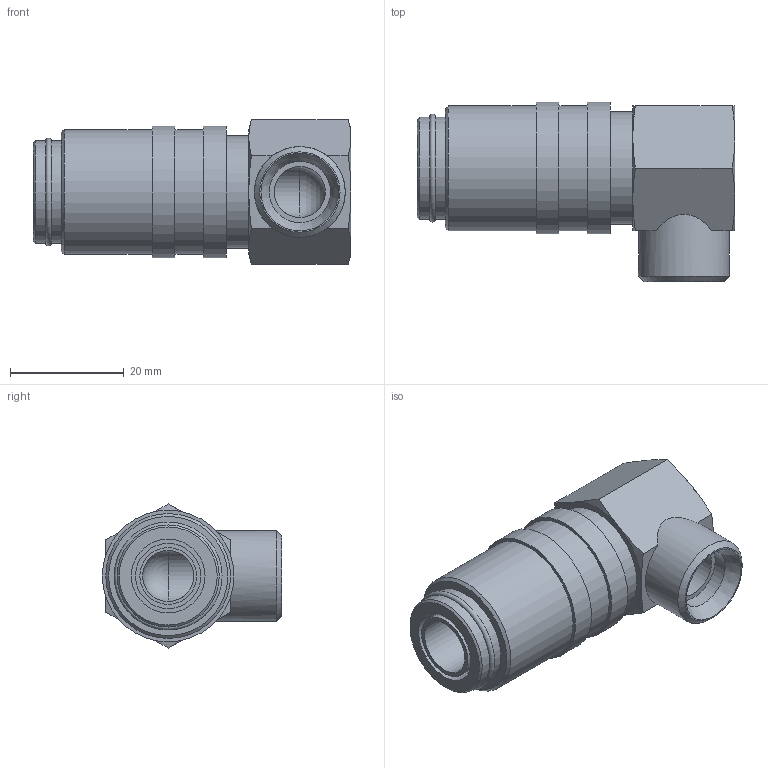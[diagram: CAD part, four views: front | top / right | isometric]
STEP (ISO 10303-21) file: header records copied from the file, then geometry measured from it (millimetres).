
FILE_DESCRIPTION( ( 'STEP AP203' ), ' ' );
FILE_NAME( 'p:/temp/worker_8/2672_3504/app_41_02016041909052425100464192d056f_000000_00_00_000000/format_0/MK25013M161,5.stp', '2016-04-19T07:05:24', ( '' ), ( '' ), ' ', 'PARTsolutions', ' ' );
FILE_SCHEMA( ( 'CONFIG_CONTROL_DESIGN' ) );
Length unit declared in the file: millimetre
Products named in the file (1): _MK25013M161,5
Bounding box: 56 x 31.6 x 25.4 mm (x, y, z)
Volume: 18334.1 mm3; surface area: 8209.2 mm2
Topology: 1 solids, 1 shells, 52 faces, 102 edges, 61 vertices
Faces by surface type: plane 20, cone 16, cylinder 14, torus 1, sphere 1
Full cylindrical faces by diameter (mm): 9 x2, 10 x1, 10.8 x1, 11.5 x1, 13 x1, 16 x1, 18 x2, 19.8 x1, 22 x2, 23.2 x2
Entity records: 1332 total; most frequent: CARTESIAN_POINT 313, DIRECTION 210, ORIENTED_EDGE 160, AXIS2_PLACEMENT_3D 101, EDGE_LOOP 83, EDGE_CURVE 80, FACE_OUTER_BOUND 67, VERTEX_POINT 60
